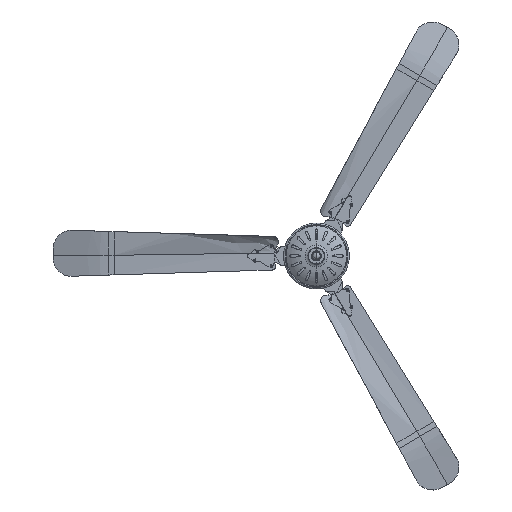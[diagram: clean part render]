
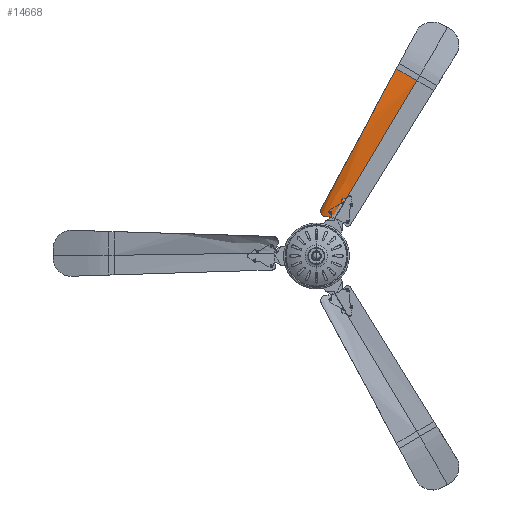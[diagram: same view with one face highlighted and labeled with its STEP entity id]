
A CAD part, top view. The second image highlights one B-rep face of the part: STEP entity #14668.
In plain terms, the highlighted free-form (B-spline) face has degree [3, 1] with [6, 2] control points.
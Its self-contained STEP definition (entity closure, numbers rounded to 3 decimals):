
#556=B_SPLINE_SURFACE_WITH_KNOTS('',3,1,((#22538,#22539),(#22540,#22541),
(#22542,#22543),(#22544,#22545),(#22546,#22547),(#22548,#22549)),
 .UNSPECIFIED.,.F.,.F.,.F.,(4,1,1,4),(2,2),(0.,0.348,0.696,
1.),(0.,1.),.UNSPECIFIED.);
#821=LINE('',#22551,#1866);
#822=LINE('',#22553,#1867);
#823=LINE('',#22555,#1868);
#824=LINE('',#22556,#1869);
#1866=VECTOR('',#17136,304.8);
#1867=VECTOR('',#17137,304.8);
#1868=VECTOR('',#17138,304.8);
#1869=VECTOR('',#17139,304.8);
#3296=FACE_OUTER_BOUND('',#4186,.T.);
#4186=EDGE_LOOP('',(#10577,#10578,#10579,#10580,#10581,#10582,#10583));
#5469=B_SPLINE_CURVE_WITH_KNOTS('',3,(#22019,#22020,#22021,#22022,#22023,
#22024,#22025,#22026,#22027,#22028),.UNSPECIFIED.,.F.,.F.,(4,2,2,2,4),(-29.954,
-22.383,-14.992,-7.411,0.),.UNSPECIFIED.);
#5471=B_SPLINE_CURVE_WITH_KNOTS('',3,(#22057,#22058,#22059,#22060,#22061,
#22062,#22063,#22064,#22065,#22066,#22067,#22068),.UNSPECIFIED.,.F.,.F.,
(4,1,1,1,1,1,1,1,1,4),(0.,0.111,0.222,0.333,
0.444,0.556,0.667,0.778,
0.889,1.),.UNSPECIFIED.);
#5474=B_SPLINE_CURVE_WITH_KNOTS('',3,(#22195,#22196,#22197,#22198,#22199,
#22200,#22201,#22202,#22203,#22204),.UNSPECIFIED.,.F.,.F.,(4,2,2,2,4),(-529.414,
-264.243,-130.882,-63.798,0.),.UNSPECIFIED.);
#6445=VERTEX_POINT('',#22011);
#6446=VERTEX_POINT('',#22018);
#6448=VERTEX_POINT('',#22056);
#6452=VERTEX_POINT('',#22194);
#6481=VERTEX_POINT('',#22550);
#6482=VERTEX_POINT('',#22552);
#6483=VERTEX_POINT('',#22554);
#8016=EDGE_CURVE('',#6446,#6445,#5469,.T.);
#8019=EDGE_CURVE('',#6448,#6446,#5471,.T.);
#8024=EDGE_CURVE('',#6452,#6448,#5474,.T.);
#8066=EDGE_CURVE('',#6452,#6481,#821,.T.);
#8067=EDGE_CURVE('',#6482,#6445,#822,.T.);
#8068=EDGE_CURVE('',#6483,#6482,#823,.T.);
#8069=EDGE_CURVE('',#6481,#6483,#824,.T.);
#10577=ORIENTED_EDGE('',*,*,#8066,.F.);
#10578=ORIENTED_EDGE('',*,*,#8024,.T.);
#10579=ORIENTED_EDGE('',*,*,#8019,.T.);
#10580=ORIENTED_EDGE('',*,*,#8016,.T.);
#10581=ORIENTED_EDGE('',*,*,#8067,.F.);
#10582=ORIENTED_EDGE('',*,*,#8068,.F.);
#10583=ORIENTED_EDGE('',*,*,#8069,.F.);
#14668=ADVANCED_FACE('',(#3296),#556,.F.);
#17136=DIRECTION('',(0.86,-0.496,-0.122));
#17137=DIRECTION('',(-0.512,-0.859,-0.006));
#17138=DIRECTION('',(-0.512,-0.859,-0.006));
#17139=DIRECTION('',(0.86,-0.496,-0.122));
#22011=CARTESIAN_POINT('',(62.039,127.622,425.278));
#22018=CARTESIAN_POINT('',(33.46,132.358,431.288));
#22019=CARTESIAN_POINT('Ctrl Pts',(33.46,132.358,431.289));
#22020=CARTESIAN_POINT('Ctrl Pts',(35.785,132.379,430.29));
#22021=CARTESIAN_POINT('Ctrl Pts',(38.145,132.304,429.407));
#22022=CARTESIAN_POINT('Ctrl Pts',(42.884,131.946,427.892));
#22023=CARTESIAN_POINT('Ctrl Pts',(45.254,131.668,427.257));
#22024=CARTESIAN_POINT('Ctrl Pts',(50.075,130.888,426.223));
#22025=CARTESIAN_POINT('Ctrl Pts',(52.523,130.382,425.831));
#22026=CARTESIAN_POINT('Ctrl Pts',(57.343,129.154,425.339));
#22027=CARTESIAN_POINT('Ctrl Pts',(59.708,128.44,425.234));
#22028=CARTESIAN_POINT('Ctrl Pts',(62.039,127.622,425.278));
#22056=CARTESIAN_POINT('',(16.424,160.566,463.907));
#22057=CARTESIAN_POINT('Ctrl Pts',(16.424,160.566,463.907));
#22058=CARTESIAN_POINT('Ctrl Pts',(15.487,158.695,463.854));
#22059=CARTESIAN_POINT('Ctrl Pts',(14.323,155.36,462.408));
#22060=CARTESIAN_POINT('Ctrl Pts',(14.019,151.162,458.184));
#22061=CARTESIAN_POINT('Ctrl Pts',(14.469,147.349,453.873));
#22062=CARTESIAN_POINT('Ctrl Pts',(15.648,143.741,449.455));
#22063=CARTESIAN_POINT('Ctrl Pts',(17.557,140.351,445.133));
#22064=CARTESIAN_POINT('Ctrl Pts',(20.257,137.266,441.001));
#22065=CARTESIAN_POINT('Ctrl Pts',(23.809,134.658,437.182));
#22066=CARTESIAN_POINT('Ctrl Pts',(28.248,132.811,433.84));
#22067=CARTESIAN_POINT('Ctrl Pts',(31.668,132.34,432.047));
#22068=CARTESIAN_POINT('Ctrl Pts',(33.46,132.358,431.288));
#22194=CARTESIAN_POINT('',(270.282,632.903,438.427));
#22195=CARTESIAN_POINT('Ctrl Pts',(270.282,632.903,438.427));
#22196=CARTESIAN_POINT('Ctrl Pts',(230.867,559.566,441.696));
#22197=CARTESIAN_POINT('Ctrl Pts',(183.863,472.109,445.683));
#22198=CARTESIAN_POINT('Ctrl Pts',(122.917,358.711,451.312));
#22199=CARTESIAN_POINT('Ctrl Pts',(100.232,316.502,453.494));
#22200=CARTESIAN_POINT('Ctrl Pts',(69.212,258.786,456.823));
#22201=CARTESIAN_POINT('Ctrl Pts',(58.23,238.353,458.065));
#22202=CARTESIAN_POINT('Ctrl Pts',(37.9,200.526,460.615));
#22203=CARTESIAN_POINT('Ctrl Pts',(26.458,179.236,462.174));
#22204=CARTESIAN_POINT('Ctrl Pts',(16.424,160.566,463.907));
#22538=CARTESIAN_POINT('Ctrl Pts',(55.459,116.592,425.2));
#22539=CARTESIAN_POINT('Ctrl Pts',(339.564,592.904,428.604));
#22540=CARTESIAN_POINT('Ctrl Pts',(48.009,120.893,425.017));
#22541=CARTESIAN_POINT('Ctrl Pts',(330.908,597.901,429.832));
#22542=CARTESIAN_POINT('Ctrl Pts',(32.993,129.563,428.605));
#22543=CARTESIAN_POINT('Ctrl Pts',(313.596,607.896,432.286));
#22544=CARTESIAN_POINT('Ctrl Pts',(15.785,139.497,443.954));
#22545=CARTESIAN_POINT('Ctrl Pts',(288.71,622.264,435.814));
#22546=CARTESIAN_POINT('Ctrl Pts',(9.478,143.139,457.959));
#22547=CARTESIAN_POINT('Ctrl Pts',(272.48,631.634,438.116));
#22548=CARTESIAN_POINT('Ctrl Pts',(7.817,144.098,464.763));
#22549=CARTESIAN_POINT('Ctrl Pts',(264.906,636.007,439.189));
#22550=CARTESIAN_POINT('',(307.165,611.609,433.198));
#22551=CARTESIAN_POINT('',(270.282,632.903,438.427));
#22552=CARTESIAN_POINT('',(117.28,220.236,425.94));
#22553=CARTESIAN_POINT('',(339.564,592.904,428.604));
#22554=CARTESIAN_POINT('',(339.564,592.904,428.604));
#22555=CARTESIAN_POINT('',(339.564,592.904,428.604));
#22556=CARTESIAN_POINT('',(307.165,611.609,433.198));
